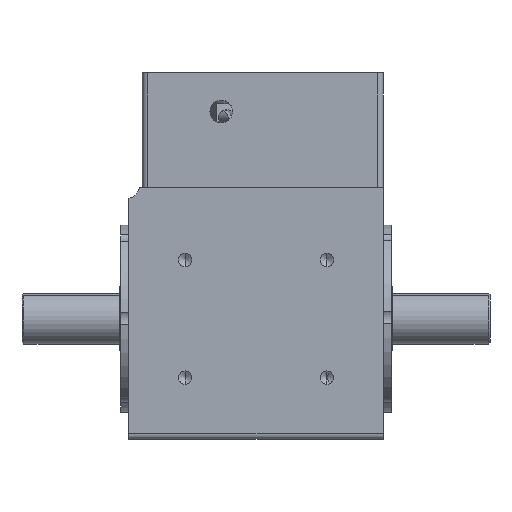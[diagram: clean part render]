
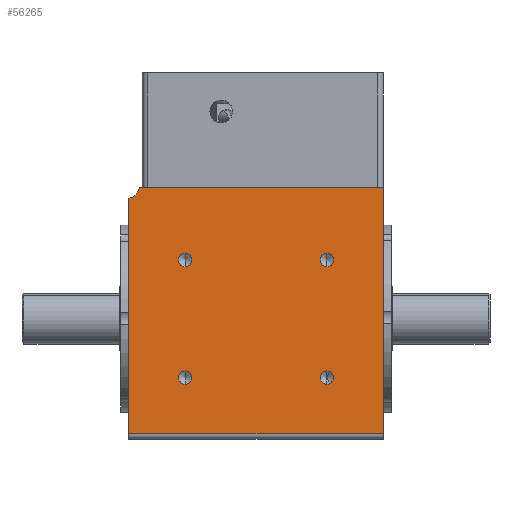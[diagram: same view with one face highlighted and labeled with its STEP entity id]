
A CAD part, front view. The second image highlights one B-rep face of the part: STEP entity #56265.
In plain terms, the highlighted planar face has unit normal (0, -1, 0).
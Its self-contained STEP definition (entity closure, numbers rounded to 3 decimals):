
#83 = CARTESIAN_POINT ( 'NONE',  ( -16.743, -60.486, 69.5 ) ) ;
#140 = AXIS2_PLACEMENT_3D ( 'NONE', #22111, #52572, #26482 ) ;
#456 = VERTEX_POINT ( 'NONE', #34444 ) ;
#875 = CARTESIAN_POINT ( 'NONE',  ( -16.743, -60.486, 23. ) ) ;
#993 = AXIS2_PLACEMENT_3D ( 'NONE', #21775, #21762, #21718 ) ;
#3227 = CARTESIAN_POINT ( 'NONE',  ( -33.844, -60.486, 94. ) ) ;
#3540 = VERTEX_POINT ( 'NONE', #3227 ) ;
#4968 = EDGE_CURVE ( 'NONE', #10540, #25689, #21842, .T. ) ;
#5240 = CIRCLE ( 'NONE', #55650, 2.5 ) ;
#5266 = DIRECTION ( 'NONE',  ( 0., 0., -1. ) ) ;
#5595 = VERTEX_POINT ( 'NONE', #83 ) ;
#6376 = CARTESIAN_POINT ( 'NONE',  ( 36.257, -60.486, 20.5 ) ) ;
#6571 = CARTESIAN_POINT ( 'NONE',  ( -37.743, -60.486, 94. ) ) ;
#6684 = ORIENTED_EDGE ( 'NONE', *, *, #37924, .F. ) ;
#6970 = VECTOR ( 'NONE', #7816, 1000. ) ;
#7816 = DIRECTION ( 'NONE',  ( 1., 0., 0. ) ) ;
#8053 = FACE_BOUND ( 'NONE', #22117, .T. ) ;
#8558 = AXIS2_PLACEMENT_3D ( 'NONE', #875, #31435, #5266 ) ;
#8862 = EDGE_CURVE ( 'NONE', #41271, #50436, #40101, .T. ) ;
#9671 = CARTESIAN_POINT ( 'NONE',  ( 57.257, -60.486, 2. ) ) ;
#9756 = AXIS2_PLACEMENT_3D ( 'NONE', #13642, #44238, #18051 ) ;
#10540 = VERTEX_POINT ( 'NONE', #26467 ) ;
#10745 = ORIENTED_EDGE ( 'NONE', *, *, #47231, .F. ) ;
#10972 = DIRECTION ( 'NONE',  ( 0., 0., 1. ) ) ;
#11117 = DIRECTION ( 'NONE',  ( 0., -1., 0. ) ) ;
#11132 = DIRECTION ( 'NONE',  ( 0., -1., 0. ) ) ;
#11416 = VECTOR ( 'NONE', #53740, 1000. ) ;
#12554 = EDGE_LOOP ( 'NONE', ( #34734, #15586 ) ) ;
#13642 = CARTESIAN_POINT ( 'NONE',  ( -16.743, -60.486, 67. ) ) ;
#14804 = ORIENTED_EDGE ( 'NONE', *, *, #46845, .F. ) ;
#15005 = PLANE ( 'NONE',  #50512 ) ;
#15023 = CIRCLE ( 'NONE', #140, 2.5 ) ;
#15586 = ORIENTED_EDGE ( 'NONE', *, *, #30939, .F. ) ;
#16226 = CARTESIAN_POINT ( 'NONE',  ( -16.743, -60.486, 23. ) ) ;
#16720 = EDGE_CURVE ( 'NONE', #32229, #41271, #23057, .T. ) ;
#17977 = ORIENTED_EDGE ( 'NONE', *, *, #19770, .F. ) ;
#18051 = DIRECTION ( 'NONE',  ( 0., 0., -1. ) ) ;
#18204 = AXIS2_PLACEMENT_3D ( 'NONE', #37298, #11117, #41695 ) ;
#18735 = CIRCLE ( 'NONE', #53067, 2.5 ) ;
#19320 = CARTESIAN_POINT ( 'NONE',  ( -37.743, -60.486, 90.101 ) ) ;
#19732 = FACE_BOUND ( 'NONE', #12554, .T. ) ;
#19770 = EDGE_CURVE ( 'NONE', #5595, #54128, #18735, .T. ) ;
#19830 = ORIENTED_EDGE ( 'NONE', *, *, #28446, .F. ) ;
#20626 = DIRECTION ( 'NONE',  ( 0., 0., -1. ) ) ;
#20837 = CARTESIAN_POINT ( 'NONE',  ( -37.743, -60.486, 94. ) ) ;
#21158 = CARTESIAN_POINT ( 'NONE',  ( -16.743, -60.486, 67. ) ) ;
#21718 = DIRECTION ( 'NONE',  ( 0., 0., -1. ) ) ;
#21760 = DIRECTION ( 'NONE',  ( 0., -1., 0. ) ) ;
#21762 = DIRECTION ( 'NONE',  ( 0., -1., 0. ) ) ;
#21775 = CARTESIAN_POINT ( 'NONE',  ( 36.257, -60.486, 67. ) ) ;
#21842 = CIRCLE ( 'NONE', #993, 2.5 ) ;
#22111 = CARTESIAN_POINT ( 'NONE',  ( 36.257, -60.486, 23. ) ) ;
#22117 = EDGE_LOOP ( 'NONE', ( #26726, #17977 ) ) ;
#22361 = CARTESIAN_POINT ( 'NONE',  ( 57.257, -60.486, 94. ) ) ;
#22450 = FACE_BOUND ( 'NONE', #35026, .T. ) ;
#23057 = LINE ( 'NONE', #40868, #11416 ) ;
#23325 = EDGE_CURVE ( 'NONE', #54128, #5595, #28108, .T. ) ;
#23823 = AXIS2_PLACEMENT_3D ( 'NONE', #37318, #11132, #41717 ) ;
#25527 = DIRECTION ( 'NONE',  ( 0., 0., -1. ) ) ;
#25689 = VERTEX_POINT ( 'NONE', #34996 ) ;
#26467 = CARTESIAN_POINT ( 'NONE',  ( 36.257, -60.486, 64.5 ) ) ;
#26482 = DIRECTION ( 'NONE',  ( 0., 0., -1. ) ) ;
#26726 = ORIENTED_EDGE ( 'NONE', *, *, #23325, .F. ) ;
#26838 = VERTEX_POINT ( 'NONE', #51403 ) ;
#27120 = VERTEX_POINT ( 'NONE', #27742 ) ;
#27742 = CARTESIAN_POINT ( 'NONE',  ( 36.257, -60.486, 25.5 ) ) ;
#27925 = EDGE_CURVE ( 'NONE', #49955, #27120, #29903, .T. ) ;
#28108 = CIRCLE ( 'NONE', #9756, 2.5 ) ;
#28446 = EDGE_CURVE ( 'NONE', #456, #45210, #29857, .T. ) ;
#29857 = CIRCLE ( 'NONE', #8558, 2.5 ) ;
#29903 = CIRCLE ( 'NONE', #49048, 2.5 ) ;
#30939 = EDGE_CURVE ( 'NONE', #25689, #10540, #41983, .T. ) ;
#31305 = FACE_OUTER_BOUND ( 'NONE', #37875, .T. ) ;
#31311 = DIRECTION ( 'NONE',  ( 0., 0., -1. ) ) ;
#31381 = ORIENTED_EDGE ( 'NONE', *, *, #39370, .F. ) ;
#31435 = DIRECTION ( 'NONE',  ( 0., -1., 0. ) ) ;
#31706 = EDGE_LOOP ( 'NONE', ( #37460, #19830 ) ) ;
#32229 = VERTEX_POINT ( 'NONE', #9671 ) ;
#33673 = CARTESIAN_POINT ( 'NONE',  ( -37.743, -60.486, 94. ) ) ;
#34444 = CARTESIAN_POINT ( 'NONE',  ( -16.743, -60.486, 25.5 ) ) ;
#34556 = ORIENTED_EDGE ( 'NONE', *, *, #27925, .F. ) ;
#34734 = ORIENTED_EDGE ( 'NONE', *, *, #4968, .F. ) ;
#34996 = CARTESIAN_POINT ( 'NONE',  ( 36.257, -60.486, 69.5 ) ) ;
#35026 = EDGE_LOOP ( 'NONE', ( #34556, #6684 ) ) ;
#37141 = DIRECTION ( 'NONE',  ( 0., 1., 0. ) ) ;
#37298 = CARTESIAN_POINT ( 'NONE',  ( 36.257, -60.486, 67. ) ) ;
#37318 = CARTESIAN_POINT ( 'NONE',  ( -38.743, -60.486, 95. ) ) ;
#37460 = ORIENTED_EDGE ( 'NONE', *, *, #40570, .F. ) ;
#37875 = EDGE_LOOP ( 'NONE', ( #53210, #31381, #10745, #14804, #44876 ) ) ;
#37924 = EDGE_CURVE ( 'NONE', #27120, #49955, #15023, .T. ) ;
#38725 = VECTOR ( 'NONE', #53105, 1000. ) ;
#39087 = LINE ( 'NONE', #20837, #6970 ) ;
#39370 = EDGE_CURVE ( 'NONE', #26838, #32229, #52419, .T. ) ;
#40101 = LINE ( 'NONE', #33673, #38725 ) ;
#40570 = EDGE_CURVE ( 'NONE', #45210, #456, #5240, .T. ) ;
#40868 = CARTESIAN_POINT ( 'NONE',  ( -37.743, -60.486, 2. ) ) ;
#40877 = VECTOR ( 'NONE', #31311, 1000. ) ;
#41271 = VERTEX_POINT ( 'NONE', #48375 ) ;
#41695 = DIRECTION ( 'NONE',  ( 0., 0., -1. ) ) ;
#41717 = DIRECTION ( 'NONE',  ( 0., 0., -1. ) ) ;
#41983 = CIRCLE ( 'NONE', #18204, 2.5 ) ;
#42527 = CIRCLE ( 'NONE', #23823, 5. ) ;
#42916 = FACE_BOUND ( 'NONE', #31706, .T. ) ;
#44238 = DIRECTION ( 'NONE',  ( 0., -1., 0. ) ) ;
#44876 = ORIENTED_EDGE ( 'NONE', *, *, #8862, .F. ) ;
#45210 = VERTEX_POINT ( 'NONE', #54227 ) ;
#46798 = DIRECTION ( 'NONE',  ( 0., -1., 0. ) ) ;
#46845 = EDGE_CURVE ( 'NONE', #50436, #3540, #42527, .T. ) ;
#47231 = EDGE_CURVE ( 'NONE', #3540, #26838, #39087, .T. ) ;
#47927 = CARTESIAN_POINT ( 'NONE',  ( 36.257, -60.486, 23. ) ) ;
#48375 = CARTESIAN_POINT ( 'NONE',  ( -37.743, -60.486, 2. ) ) ;
#49048 = AXIS2_PLACEMENT_3D ( 'NONE', #47927, #21760, #52247 ) ;
#49955 = VERTEX_POINT ( 'NONE', #6376 ) ;
#50436 = VERTEX_POINT ( 'NONE', #19320 ) ;
#50512 = AXIS2_PLACEMENT_3D ( 'NONE', #6571, #37141, #10972 ) ;
#51403 = CARTESIAN_POINT ( 'NONE',  ( 57.257, -60.486, 94. ) ) ;
#51651 = DIRECTION ( 'NONE',  ( 0., -1., 0. ) ) ;
#52247 = DIRECTION ( 'NONE',  ( 0., 0., -1. ) ) ;
#52419 = LINE ( 'NONE', #22361, #40877 ) ;
#52572 = DIRECTION ( 'NONE',  ( 0., -1., 0. ) ) ;
#53067 = AXIS2_PLACEMENT_3D ( 'NONE', #21158, #51651, #25527 ) ;
#53105 = DIRECTION ( 'NONE',  ( 0., 0., 1. ) ) ;
#53210 = ORIENTED_EDGE ( 'NONE', *, *, #16720, .F. ) ;
#53740 = DIRECTION ( 'NONE',  ( -1., 0., 0. ) ) ;
#54128 = VERTEX_POINT ( 'NONE', #55132 ) ;
#54227 = CARTESIAN_POINT ( 'NONE',  ( -16.743, -60.486, 20.5 ) ) ;
#55132 = CARTESIAN_POINT ( 'NONE',  ( -16.743, -60.486, 64.5 ) ) ;
#55650 = AXIS2_PLACEMENT_3D ( 'NONE', #16226, #46798, #20626 ) ;
#56265 = ADVANCED_FACE ( 'NONE', ( #31305, #22450, #42916, #19732, #8053 ), #15005, .F. ) ;
